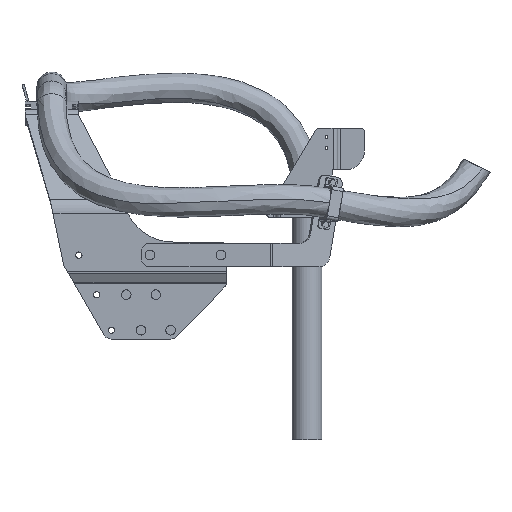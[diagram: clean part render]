
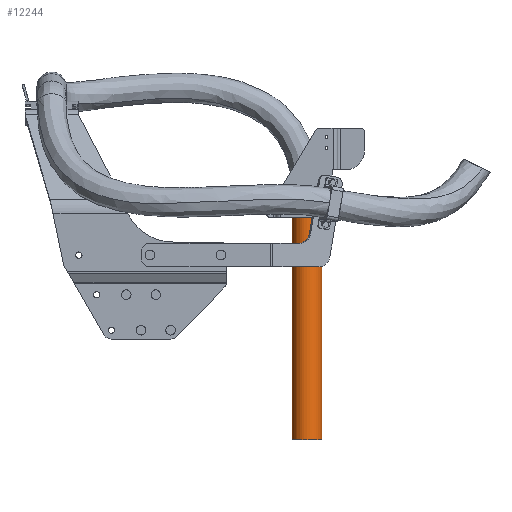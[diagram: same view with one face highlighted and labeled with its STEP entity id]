
A CAD part, front view. The second image highlights one B-rep face of the part: STEP entity #12244.
In plain terms, the highlighted cylindrical face has radius 25 mm (diameter 50 mm), a partial arc.
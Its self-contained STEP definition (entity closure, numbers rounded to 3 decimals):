
#24 = CARTESIAN_POINT ( 'NONE',  ( 7., 25., 338.182 ) ) ;
#128 = CARTESIAN_POINT ( 'NONE',  ( 32., 25., 338.182 ) ) ;
#238 = DIRECTION ( 'NONE',  ( 0., 0., -1. ) ) ;
#885 = CARTESIAN_POINT ( 'NONE',  ( -18., 25., 338.182 ) ) ;
#1076 = ORIENTED_EDGE ( 'NONE', *, *, #3853, .F. ) ;
#1380 = ORIENTED_EDGE ( 'NONE', *, *, #12909, .T. ) ;
#1551 = CARTESIAN_POINT ( 'NONE',  ( -18., 25., 714.5 ) ) ;
#2279 = CYLINDRICAL_SURFACE ( 'NONE', #5742, 25. ) ;
#2726 = CARTESIAN_POINT ( 'NONE',  ( -18., 25., 338.182 ) ) ;
#3121 = CARTESIAN_POINT ( 'NONE',  ( 32., 25., 714.5 ) ) ;
#3297 = DIRECTION ( 'NONE',  ( -0.955, -0.295, 0. ) ) ;
#3853 = EDGE_CURVE ( 'NONE', #10406, #13921, #12723, .T. ) ;
#4833 = CIRCLE ( 'NONE', #10526, 25. ) ;
#4965 = DIRECTION ( 'NONE',  ( 1., 0., 0. ) ) ;
#5112 = VECTOR ( 'NONE', #9309, 1000. ) ;
#5719 = CARTESIAN_POINT ( 'NONE',  ( 7., 25., 714.5 ) ) ;
#5742 = AXIS2_PLACEMENT_3D ( 'NONE', #13192, #12131, #4965 ) ;
#6665 = CIRCLE ( 'NONE', #8494, 25. ) ;
#7494 = ORIENTED_EDGE ( 'NONE', *, *, #13507, .F. ) ;
#7700 = FACE_OUTER_BOUND ( 'NONE', #12945, .T. ) ;
#7985 = EDGE_CURVE ( 'NONE', #11073, #9172, #8245, .T. ) ;
#8245 = LINE ( 'NONE', #13666, #5112 ) ;
#8456 = VECTOR ( 'NONE', #10577, 1000. ) ;
#8494 = AXIS2_PLACEMENT_3D ( 'NONE', #24, #13073, #3297 ) ;
#9172 = VERTEX_POINT ( 'NONE', #3121 ) ;
#9309 = DIRECTION ( 'NONE',  ( 0., 0., 1. ) ) ;
#10406 = VERTEX_POINT ( 'NONE', #2726 ) ;
#10526 = AXIS2_PLACEMENT_3D ( 'NONE', #5719, #238, #12009 ) ;
#10577 = DIRECTION ( 'NONE',  ( 0., 0., 1. ) ) ;
#11073 = VERTEX_POINT ( 'NONE', #128 ) ;
#11299 = ORIENTED_EDGE ( 'NONE', *, *, #7985, .T. ) ;
#12009 = DIRECTION ( 'NONE',  ( 1., 0., 0. ) ) ;
#12131 = DIRECTION ( 'NONE',  ( 0., 0., 1. ) ) ;
#12244 = ADVANCED_FACE ( 'NONE', ( #7700 ), #2279, .T. ) ;
#12723 = LINE ( 'NONE', #885, #8456 ) ;
#12909 = EDGE_CURVE ( 'NONE', #9172, #13921, #4833, .T. ) ;
#12945 = EDGE_LOOP ( 'NONE', ( #1076, #7494, #11299, #1380 ) ) ;
#13073 = DIRECTION ( 'NONE',  ( 0., 0., -1. ) ) ;
#13192 = CARTESIAN_POINT ( 'NONE',  ( 7., 25., 338.182 ) ) ;
#13507 = EDGE_CURVE ( 'NONE', #11073, #10406, #6665, .T. ) ;
#13666 = CARTESIAN_POINT ( 'NONE',  ( 32., 25., 338.182 ) ) ;
#13921 = VERTEX_POINT ( 'NONE', #1551 ) ;
